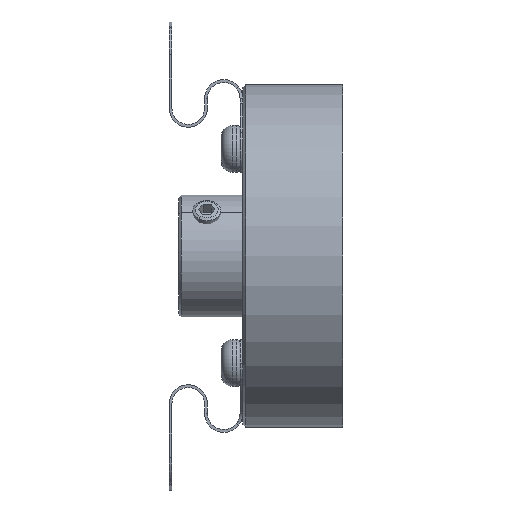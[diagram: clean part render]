
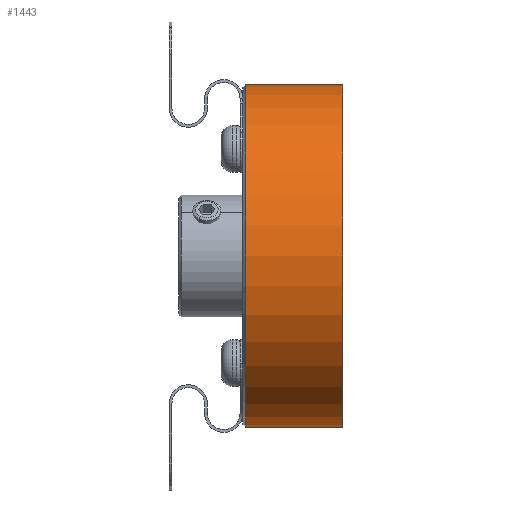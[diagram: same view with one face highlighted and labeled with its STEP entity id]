
A CAD part, front view. The second image highlights one B-rep face of the part: STEP entity #1443.
In plain terms, the highlighted cylindrical face has radius 18.25 mm (diameter 36.5 mm), a partial arc.
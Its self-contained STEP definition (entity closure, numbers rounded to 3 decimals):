
#169 = DIRECTION ( 'NONE',  ( 0., 0., 1. ) ) ;
#1118 = CIRCLE ( 'NONE', #19141, 18.25 ) ;
#1206 = ORIENTED_EDGE ( 'NONE', *, *, #20133, .F. ) ;
#1435 = DIRECTION ( 'NONE',  ( -1., 0., 0. ) ) ;
#1443 = ADVANCED_FACE ( 'NONE', ( #7768 ), #5721, .T. ) ;
#2356 = DIRECTION ( 'NONE',  ( -1., 0., 0. ) ) ;
#4263 = EDGE_LOOP ( 'NONE', ( #1206, #11764, #24232, #19817 ) ) ;
#5280 = CARTESIAN_POINT ( 'NONE',  ( -1.3, 0., 18.25 ) ) ;
#5433 = VECTOR ( 'NONE', #14714, 1000. ) ;
#5721 = CYLINDRICAL_SURFACE ( 'NONE', #11731, 18.25 ) ;
#5896 = AXIS2_PLACEMENT_3D ( 'NONE', #16924, #22616, #169 ) ;
#7088 = CARTESIAN_POINT ( 'NONE',  ( -1000., 0., 18.25 ) ) ;
#7253 = VERTEX_POINT ( 'NONE', #5280 ) ;
#7733 = VERTEX_POINT ( 'NONE', #23827 ) ;
#7768 = FACE_OUTER_BOUND ( 'NONE', #4263, .T. ) ;
#8093 = DIRECTION ( 'NONE',  ( 0., 0., 1. ) ) ;
#8984 = CIRCLE ( 'NONE', #5896, 18.25 ) ;
#11672 = CARTESIAN_POINT ( 'NONE',  ( -1.3, 0., 0. ) ) ;
#11731 = AXIS2_PLACEMENT_3D ( 'NONE', #12735, #22340, #14626 ) ;
#11764 = ORIENTED_EDGE ( 'NONE', *, *, #22434, .T. ) ;
#11855 = EDGE_CURVE ( 'NONE', #13794, #20425, #8984, .T. ) ;
#12467 = CARTESIAN_POINT ( 'NONE',  ( -11.65, 0., -18.25 ) ) ;
#12735 = CARTESIAN_POINT ( 'NONE',  ( -1000., 0., 0. ) ) ;
#13696 = CARTESIAN_POINT ( 'NONE',  ( -11.65, 0., 18.25 ) ) ;
#13794 = VERTEX_POINT ( 'NONE', #13696 ) ;
#14399 = LINE ( 'NONE', #7088, #23790 ) ;
#14626 = DIRECTION ( 'NONE',  ( 0., 0., 1. ) ) ;
#14714 = DIRECTION ( 'NONE',  ( -1., 0., 0. ) ) ;
#15658 = EDGE_CURVE ( 'NONE', #7253, #13794, #14399, .T. ) ;
#15975 = LINE ( 'NONE', #22497, #5433 ) ;
#16924 = CARTESIAN_POINT ( 'NONE',  ( -11.65, 0., 0. ) ) ;
#19141 = AXIS2_PLACEMENT_3D ( 'NONE', #11672, #2356, #8093 ) ;
#19817 = ORIENTED_EDGE ( 'NONE', *, *, #11855, .T. ) ;
#20133 = EDGE_CURVE ( 'NONE', #7733, #20425, #15975, .T. ) ;
#20425 = VERTEX_POINT ( 'NONE', #12467 ) ;
#22340 = DIRECTION ( 'NONE',  ( -1., 0., 0. ) ) ;
#22434 = EDGE_CURVE ( 'NONE', #7733, #7253, #1118, .T. ) ;
#22497 = CARTESIAN_POINT ( 'NONE',  ( -1000., 0., -18.25 ) ) ;
#22616 = DIRECTION ( 'NONE',  ( 1., 0., 0. ) ) ;
#23790 = VECTOR ( 'NONE', #1435, 1000. ) ;
#23827 = CARTESIAN_POINT ( 'NONE',  ( -1.3, 0., -18.25 ) ) ;
#24232 = ORIENTED_EDGE ( 'NONE', *, *, #15658, .T. ) ;
